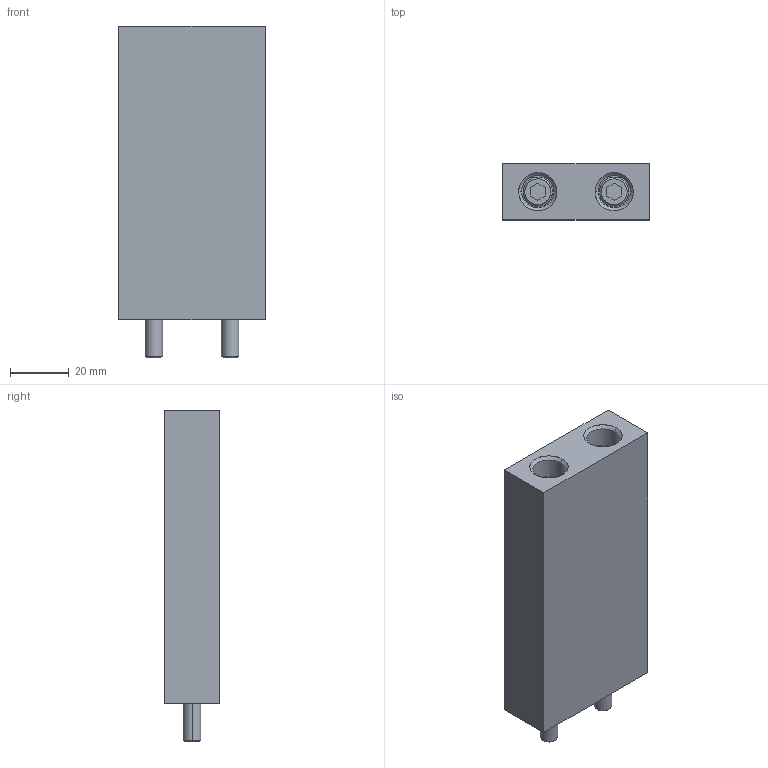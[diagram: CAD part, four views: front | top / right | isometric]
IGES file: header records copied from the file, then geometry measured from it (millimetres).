
Global section: file name: E:\UnigraphicsGraphicData\MISUMI_PRESS-PARTS\IGES\3d_sbvk19-50-100-y-100_00155_r00.igs; native system: NX V5.0; preprocessor: UGS NX IGES V5.0; author: MISUMI; date: 20110105.162510; units: millimetre
Bounding box: 50 x 19 x 113 mm (x, y, z)
Surface area: 24761 mm2 (no closed solid volume)
Topology: 0 solids, 0 shells, 56 faces, 336 edges, 336 vertices
Faces by surface type: bspline 56
